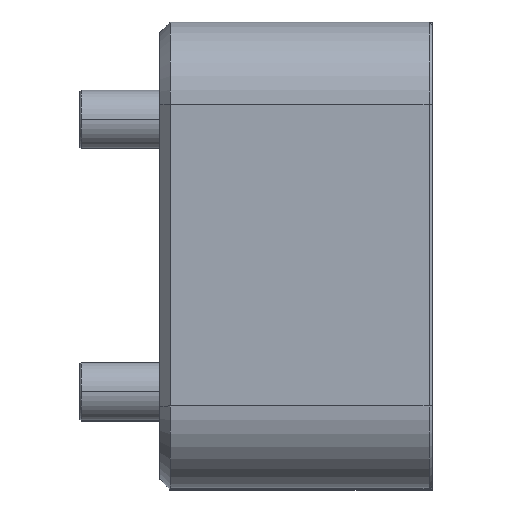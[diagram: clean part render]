
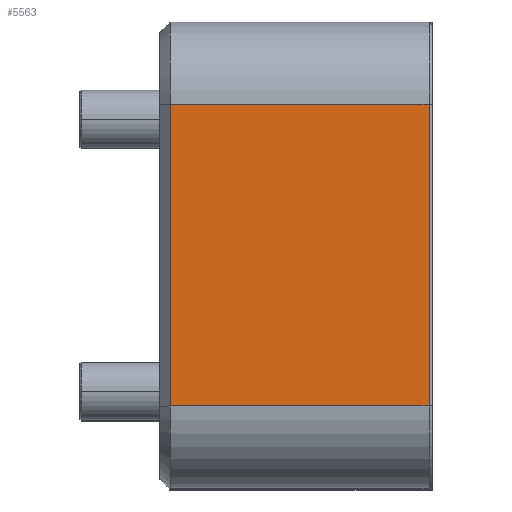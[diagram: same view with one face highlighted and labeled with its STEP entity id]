
A CAD part, top view. The second image highlights one B-rep face of the part: STEP entity #5563.
In plain terms, the highlighted planar face has unit normal (0, 0, 1).
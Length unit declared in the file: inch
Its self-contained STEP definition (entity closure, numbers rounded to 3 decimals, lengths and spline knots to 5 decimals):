
#87 = CARTESIAN_POINT ( 'NONE',  ( -3.5, -3., 6.875 ) ) ;
#163 = DIRECTION ( 'NONE',  ( 0., 0., 1. ) ) ;
#233 = ORIENTED_EDGE ( 'NONE', *, *, #4626, .T. ) ;
#679 = DIRECTION ( 'NONE',  ( 0., -1., 0. ) ) ;
#1548 = FACE_OUTER_BOUND ( 'NONE', #6052, .T. ) ;
#1601 = VERTEX_POINT ( 'NONE', #2524 ) ;
#2181 = VERTEX_POINT ( 'NONE', #10306 ) ;
#2238 = LINE ( 'NONE', #9569, #3423 ) ;
#2399 = VECTOR ( 'NONE', #9205, 39.37008 ) ;
#2424 = ORIENTED_EDGE ( 'NONE', *, *, #3656, .T. ) ;
#2524 = CARTESIAN_POINT ( 'NONE',  ( -0.04, 1.94, 6.875 ) ) ;
#3412 = VECTOR ( 'NONE', #679, 39.37008 ) ;
#3423 = VECTOR ( 'NONE', #10380, 39.37008 ) ;
#3576 = CARTESIAN_POINT ( 'NONE',  ( -3.37, -1.94, 6.875 ) ) ;
#3656 = EDGE_CURVE ( 'NONE', #2181, #1601, #4105, .T. ) ;
#3966 = CARTESIAN_POINT ( 'NONE',  ( -3.37, 1.94, 6.875 ) ) ;
#4105 = LINE ( 'NONE', #8407, #2399 ) ;
#4626 = EDGE_CURVE ( 'NONE', #8614, #2181, #2238, .T. ) ;
#5333 = EDGE_CURVE ( 'NONE', #8862, #8614, #5665, .T. ) ;
#5563 = ADVANCED_FACE ( 'NONE', ( #1548 ), #7782, .T. ) ;
#5665 = LINE ( 'NONE', #7373, #3412 ) ;
#5697 = ORIENTED_EDGE ( 'NONE', *, *, #9405, .T. ) ;
#6052 = EDGE_LOOP ( 'NONE', ( #5697, #10317, #233, #2424 ) ) ;
#6776 = CARTESIAN_POINT ( 'NONE',  ( -3.5, 1.94, 6.875 ) ) ;
#7258 = VECTOR ( 'NONE', #9344, 39.37008 ) ;
#7373 = CARTESIAN_POINT ( 'NONE',  ( -3.37, -1.94, 6.875 ) ) ;
#7782 = PLANE ( 'NONE',  #10185 ) ;
#8407 = CARTESIAN_POINT ( 'NONE',  ( -0.04, -3., 6.875 ) ) ;
#8614 = VERTEX_POINT ( 'NONE', #3576 ) ;
#8862 = VERTEX_POINT ( 'NONE', #3966 ) ;
#9205 = DIRECTION ( 'NONE',  ( 0., 1., 0. ) ) ;
#9344 = DIRECTION ( 'NONE',  ( -1., 0., 0. ) ) ;
#9405 = EDGE_CURVE ( 'NONE', #1601, #8862, #9785, .T. ) ;
#9569 = CARTESIAN_POINT ( 'NONE',  ( -3.5, -1.94, 6.875 ) ) ;
#9785 = LINE ( 'NONE', #6776, #7258 ) ;
#10185 = AXIS2_PLACEMENT_3D ( 'NONE', #87, #163, #10369 ) ;
#10306 = CARTESIAN_POINT ( 'NONE',  ( -0.04, -1.94, 6.875 ) ) ;
#10317 = ORIENTED_EDGE ( 'NONE', *, *, #5333, .T. ) ;
#10369 = DIRECTION ( 'NONE',  ( 0., -1., 0. ) ) ;
#10380 = DIRECTION ( 'NONE',  ( 1., 0., 0. ) ) ;
